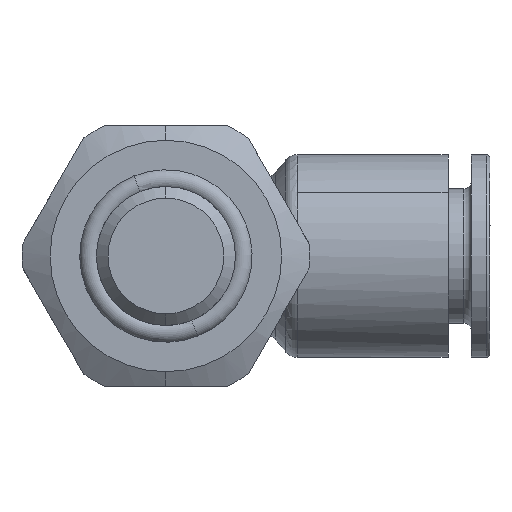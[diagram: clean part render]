
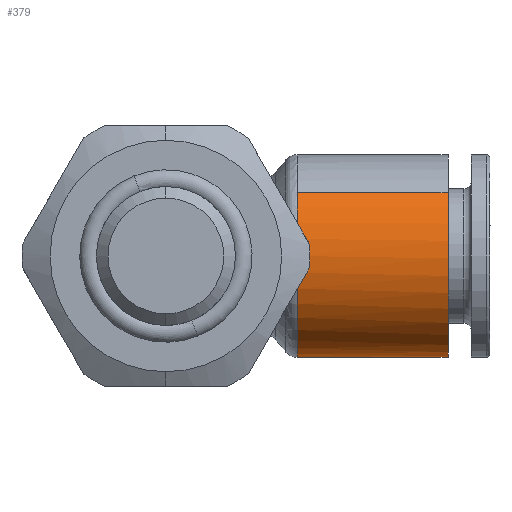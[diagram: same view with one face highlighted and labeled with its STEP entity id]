
A CAD part, left-side view. The second image highlights one B-rep face of the part: STEP entity #379.
In plain terms, the highlighted cylindrical face has radius 7 mm (diameter 14 mm), a partial arc.
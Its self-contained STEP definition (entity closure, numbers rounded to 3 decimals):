
#379 = ADVANCED_FACE ( 'NONE', ( #19398 ), #3411, .T. ) ;
#410 = ORIENTED_EDGE ( 'NONE', *, *, #20087, .T. ) ;
#510 = AXIS2_PLACEMENT_3D ( 'NONE', #7744, #6308, #14889 ) ;
#1417 = EDGE_CURVE ( 'NONE', #18149, #21853, #19746, .T. ) ;
#1508 = AXIS2_PLACEMENT_3D ( 'NONE', #6906, #21563, #15840 ) ;
#1535 = DIRECTION ( 'NONE',  ( 0., 1., 0. ) ) ;
#2197 = VERTEX_POINT ( 'NONE', #2287 ) ;
#2287 = CARTESIAN_POINT ( 'NONE',  ( -7., -9.066, 0. ) ) ;
#2294 = CARTESIAN_POINT ( 'NONE',  ( -5.465, -9.066, 4.374 ) ) ;
#3411 = CYLINDRICAL_SURFACE ( 'NONE', #14329, 7. ) ;
#3753 = CIRCLE ( 'NONE', #1508, 7. ) ;
#4827 = DIRECTION ( 'NONE',  ( 0.781, 0., -0.625 ) ) ;
#4885 = LINE ( 'NONE', #15603, #12706 ) ;
#4923 = ORIENTED_EDGE ( 'NONE', *, *, #1417, .T. ) ;
#6308 = DIRECTION ( 'NONE',  ( 0., 1., 0. ) ) ;
#6906 = CARTESIAN_POINT ( 'NONE',  ( 0., -9.066, 0. ) ) ;
#6959 = CARTESIAN_POINT ( 'NONE',  ( 0., -14.3, 0. ) ) ;
#7444 = CIRCLE ( 'NONE', #15319, 7. ) ;
#7744 = CARTESIAN_POINT ( 'NONE',  ( 0., -19.5, 0. ) ) ;
#8319 = ORIENTED_EDGE ( 'NONE', *, *, #13440, .T. ) ;
#8335 = CARTESIAN_POINT ( 'NONE',  ( 5.465, -19.5, -4.374 ) ) ;
#8942 = CARTESIAN_POINT ( 'NONE',  ( 0., -9.066, 0. ) ) ;
#9139 = VERTEX_POINT ( 'NONE', #20309 ) ;
#9910 = VECTOR ( 'NONE', #1535, 1000. ) ;
#10663 = CIRCLE ( 'NONE', #510, 7. ) ;
#12706 = VECTOR ( 'NONE', #22752, 1000. ) ;
#13107 = ORIENTED_EDGE ( 'NONE', *, *, #16487, .T. ) ;
#13440 = EDGE_CURVE ( 'NONE', #21853, #2197, #7444, .T. ) ;
#14213 = DIRECTION ( 'NONE',  ( 0., -1., 0. ) ) ;
#14329 = AXIS2_PLACEMENT_3D ( 'NONE', #6959, #21276, #4827 ) ;
#14816 = VERTEX_POINT ( 'NONE', #8335 ) ;
#14889 = DIRECTION ( 'NONE',  ( 0.781, 0., -0.625 ) ) ;
#15319 = AXIS2_PLACEMENT_3D ( 'NONE', #8942, #14213, #23116 ) ;
#15603 = CARTESIAN_POINT ( 'NONE',  ( 5.465, -14.3, -4.374 ) ) ;
#15840 = DIRECTION ( 'NONE',  ( 1., 0., 0. ) ) ;
#16229 = CARTESIAN_POINT ( 'NONE',  ( -5.465, -14.3, 4.374 ) ) ;
#16487 = EDGE_CURVE ( 'NONE', #2197, #9139, #3753, .T. ) ;
#16780 = ORIENTED_EDGE ( 'NONE', *, *, #23201, .F. ) ;
#18149 = VERTEX_POINT ( 'NONE', #22334 ) ;
#19398 = FACE_OUTER_BOUND ( 'NONE', #21949, .T. ) ;
#19746 = LINE ( 'NONE', #16229, #9910 ) ;
#20087 = EDGE_CURVE ( 'NONE', #14816, #18149, #10663, .T. ) ;
#20309 = CARTESIAN_POINT ( 'NONE',  ( 5.465, -9.066, -4.374 ) ) ;
#21276 = DIRECTION ( 'NONE',  ( 0., 1., 0. ) ) ;
#21563 = DIRECTION ( 'NONE',  ( 0., -1., 0. ) ) ;
#21853 = VERTEX_POINT ( 'NONE', #2294 ) ;
#21949 = EDGE_LOOP ( 'NONE', ( #410, #4923, #8319, #13107, #16780 ) ) ;
#22334 = CARTESIAN_POINT ( 'NONE',  ( -5.465, -19.5, 4.374 ) ) ;
#22752 = DIRECTION ( 'NONE',  ( 0., 1., 0. ) ) ;
#23116 = DIRECTION ( 'NONE',  ( 1., 0., 0. ) ) ;
#23201 = EDGE_CURVE ( 'NONE', #14816, #9139, #4885, .T. ) ;
